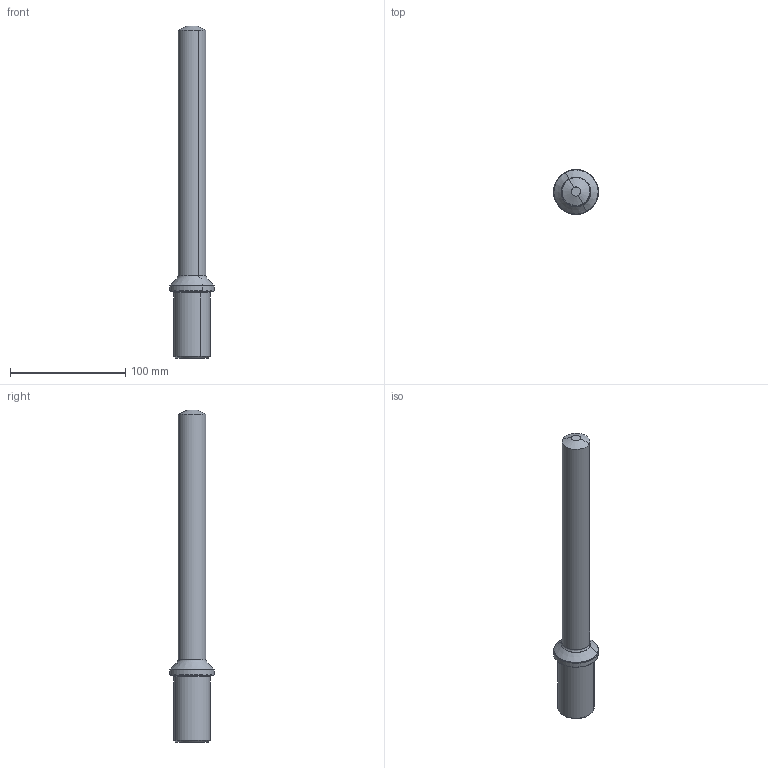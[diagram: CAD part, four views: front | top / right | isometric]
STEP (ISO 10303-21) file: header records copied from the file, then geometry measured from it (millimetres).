
FILE_DESCRIPTION(/* description */ (''),/* implementation_level */ '2;1');
FILE_NAME(/* name */ 'Z20SDSF125I.stp',/* time_stamp */ '2022-06-24T10:32:23+09:00',/* author */ (''),/* organization */ (''),/* preprocessor_version */ 'ST-DEVELOPER v16.7',/* originating_system */ 'SIEMENS PLM Software NX 12.0',/* authorisation */ '');
FILE_SCHEMA (('AUTOMOTIVE_DESIGN { 1 0 10303 214 3 1 1 1 }'));
Length unit declared in the file: millimetre
Products named in the file (1): 12012974095Bycif
Bounding box: 38.99 x 38.99 x 288.1 mm (x, y, z)
Surface area: 25302 mm2 (no closed solid volume)
Topology: 0 solids, 32 shells, 32 faces, 124 edges, 124 vertices
Faces by surface type: cone 12, cylinder 8, torus 8, plane 4
Entity records: 1868 total; most frequent: CARTESIAN_POINT 655, DIRECTION 166, ORIENTED_EDGE 124, VERTEX_POINT 124, EDGE_CURVE 124, AXIS2_PLACEMENT_3D 75, B_SPLINE_CURVE_WITH_KNOTS 68, CIRCLE 40
